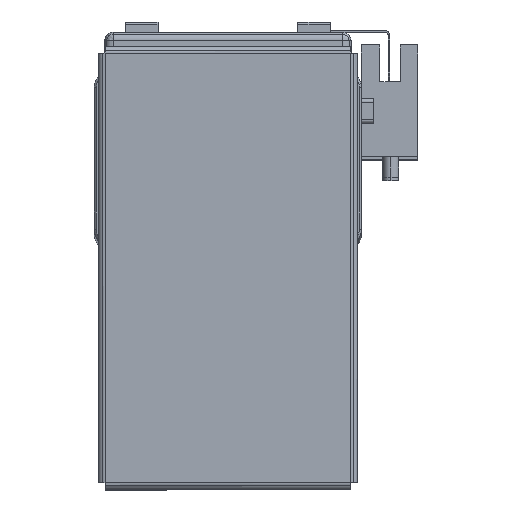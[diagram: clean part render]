
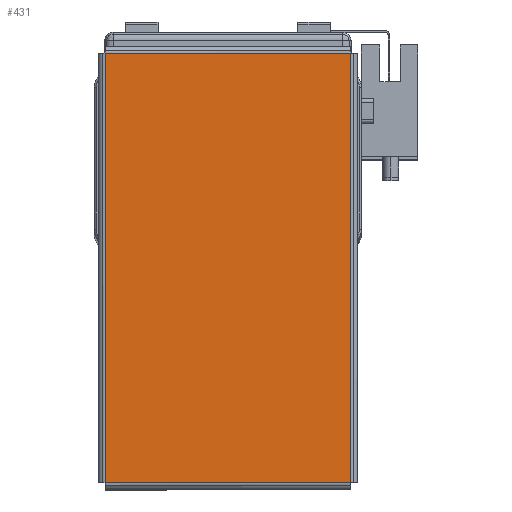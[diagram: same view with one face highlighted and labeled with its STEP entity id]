
A CAD part, top view. The second image highlights one B-rep face of the part: STEP entity #431.
In plain terms, the highlighted planar face has unit normal (0, 0, 1) as drawn and (0, -1, 0) by its records, which use the part's own axes.
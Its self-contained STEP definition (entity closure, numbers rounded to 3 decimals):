
#431 = ADVANCED_FACE ( 'NONE', ( #31573 ), #20395, .F. ) ;
#4622 = VERTEX_POINT ( 'NONE', #21902 ) ;
#4635 = VERTEX_POINT ( 'NONE', #21942 ) ;
#4657 = VERTEX_POINT ( 'NONE', #21936 ) ;
#4659 = VERTEX_POINT ( 'NONE', #21933 ) ;
#4875 = ORIENTED_EDGE ( 'NONE', *, *, #15371, .T. ) ;
#4915 = ORIENTED_EDGE ( 'NONE', *, *, #15330, .T. ) ;
#4922 = ORIENTED_EDGE ( 'NONE', *, *, #15339, .T. ) ;
#4929 = ORIENTED_EDGE ( 'NONE', *, *, #15362, .T. ) ;
#6594 = AXIS2_PLACEMENT_3D ( 'NONE', #20402, #20378, #20379 ) ;
#15330 = EDGE_CURVE ( 'NONE', #4659, #4657, #27994, .T. ) ;
#15339 = EDGE_CURVE ( 'NONE', #4635, #4622, #28022, .T. ) ;
#15362 = EDGE_CURVE ( 'NONE', #4622, #4659, #28053, .T. ) ;
#15371 = EDGE_CURVE ( 'NONE', #4657, #4635, #28075, .T. ) ;
#20378 = DIRECTION ( 'NONE',  ( 0., 1., 0. ) ) ;
#20379 = DIRECTION ( 'NONE',  ( 0., 0., 1. ) ) ;
#20395 = PLANE ( 'NONE',  #6594 ) ;
#20402 = CARTESIAN_POINT ( 'NONE',  ( 0., -1., 0. ) ) ;
#21902 = CARTESIAN_POINT ( 'NONE',  ( -52.263, -1., -29.863 ) ) ;
#21933 = CARTESIAN_POINT ( 'NONE',  ( 52.263, -1., -29.863 ) ) ;
#21936 = CARTESIAN_POINT ( 'NONE',  ( 52.263, -1., 29.863 ) ) ;
#21942 = CARTESIAN_POINT ( 'NONE',  ( -52.263, -1., 29.863 ) ) ;
#24415 = EDGE_LOOP ( 'NONE', ( #4875, #4922, #4929, #4915 ) ) ;
#27440 = DIRECTION ( 'NONE',  ( 0., 0., -1. ) ) ;
#27454 = DIRECTION ( 'NONE',  ( 0., 0., 1. ) ) ;
#27455 = CARTESIAN_POINT ( 'NONE',  ( -52.263, -1., 29.893 ) ) ;
#27463 = CARTESIAN_POINT ( 'NONE',  ( 52.263, -1., -29.893 ) ) ;
#27546 = DIRECTION ( 'NONE',  ( 1., 0., 0. ) ) ;
#27561 = CARTESIAN_POINT ( 'NONE',  ( 52.293, -1., 29.863 ) ) ;
#27562 = DIRECTION ( 'NONE',  ( -1., 0., 0. ) ) ;
#27569 = CARTESIAN_POINT ( 'NONE',  ( -52.293, -1., -29.863 ) ) ;
#27972 = VECTOR ( 'NONE', #27454, 1000. ) ;
#27992 = VECTOR ( 'NONE', #27440, 1000. ) ;
#27994 = LINE ( 'NONE', #27463, #27972 ) ;
#28022 = LINE ( 'NONE', #27455, #27992 ) ;
#28053 = LINE ( 'NONE', #27569, #28073 ) ;
#28073 = VECTOR ( 'NONE', #27546, 1000. ) ;
#28075 = LINE ( 'NONE', #27561, #28076 ) ;
#28076 = VECTOR ( 'NONE', #27562, 1000. ) ;
#31573 = FACE_OUTER_BOUND ( 'NONE', #24415, .T. ) ;
